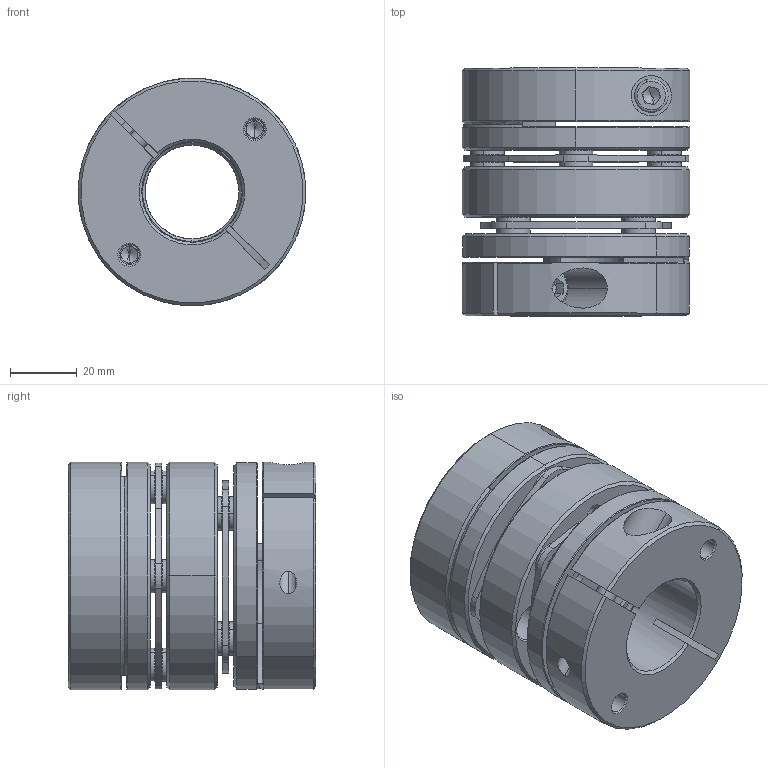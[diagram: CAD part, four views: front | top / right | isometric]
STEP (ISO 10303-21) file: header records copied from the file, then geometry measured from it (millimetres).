
FILE_DESCRIPTION (( 'STEP AP203' ), '1' );
FILE_NAME ('LD2-D68-28-30.STEP', '2021-10-26T08:46:24', ( '' ), ( '' ), 'SwSTEP 2.0', 'SolidWorks 2018', '' );
FILE_SCHEMA (( 'CONFIG_CONTROL_DESIGN' ));
Length unit declared in the file: millimetre
Products named in the file (2): LD2-D68-28-30; 錨璃102^LD2-D68
Assembly tree (1 placements, depth 2):
  LD2-D68-28-30
    錨璃102^LD2-D68
Bounding box: 68 x 74 x 68 mm (x, y, z)
Volume: 173930.4 mm3; surface area: 63149 mm2
Topology: 1 solids, 27 shells, 732 faces, 1696 edges, 1032 vertices
Faces by surface type: cylinder 256, cone 226, plane 220, torus 30
Entity records: 21398 total; most frequent: DIRECTION 3974, CARTESIAN_POINT 3912, ORIENTED_EDGE 3344, EDGE_CURVE 1672, AXIS2_PLACEMENT_3D 1614, VERTEX_POINT 1032, CIRCLE 878, EDGE_LOOP 868
